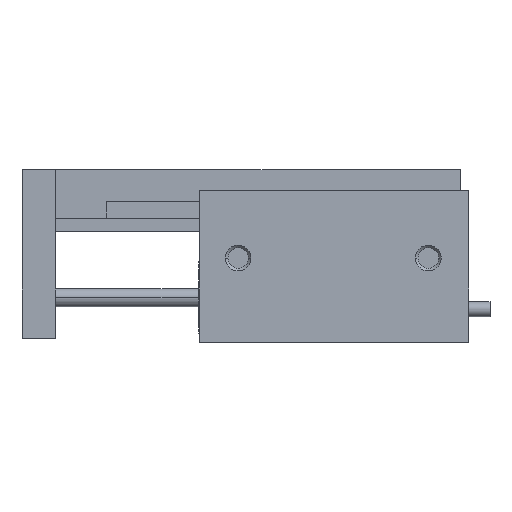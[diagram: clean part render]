
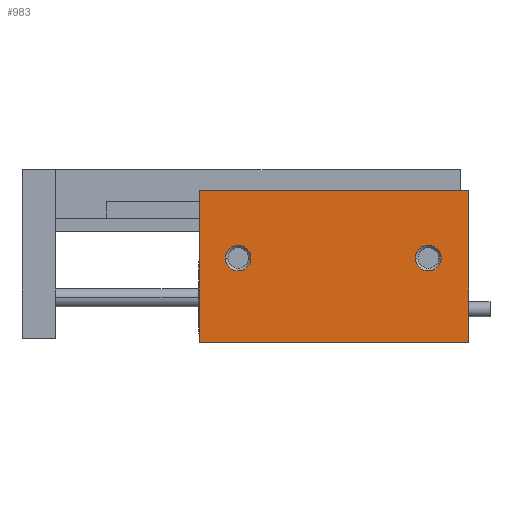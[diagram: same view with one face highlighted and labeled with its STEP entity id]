
A CAD part, top view. The second image highlights one B-rep face of the part: STEP entity #983.
In plain terms, the highlighted planar face has unit normal (0, 0, 1) as drawn and (0, 0, -1) by its records, which use the part's own axes.
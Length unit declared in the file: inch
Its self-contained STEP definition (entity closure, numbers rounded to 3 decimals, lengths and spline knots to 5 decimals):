
#102 = CARTESIAN_POINT ( 'NONE',  ( 0., -0.562, -0.43 ) ) ;
#168 = VECTOR ( 'NONE', #4026, 39.37008 ) ;
#189 = DIRECTION ( 'NONE',  ( 0., 1., 0. ) ) ;
#195 = CARTESIAN_POINT ( 'NONE',  ( 2., -0.562, -0.43 ) ) ;
#365 = DIRECTION ( 'NONE',  ( 0., 0., 1. ) ) ;
#746 = FACE_BOUND ( 'NONE', #7433, .T. ) ;
#983 = ADVANCED_FACE ( 'NONE', ( #4220, #2686, #746 ), #7044, .F. ) ;
#1037 = CARTESIAN_POINT ( 'NONE',  ( 0.205, 0.062, -0.43 ) ) ;
#1202 = VERTEX_POINT ( 'NONE', #1390 ) ;
#1208 = AXIS2_PLACEMENT_3D ( 'NONE', #6658, #2738, #7309 ) ;
#1222 = EDGE_CURVE ( 'NONE', #3232, #2114, #8208, .T. ) ;
#1319 = AXIS2_PLACEMENT_3D ( 'NONE', #6407, #2446, #7042 ) ;
#1390 = CARTESIAN_POINT ( 'NONE',  ( 2., -0.562, -0.43 ) ) ;
#1468 = CARTESIAN_POINT ( 'NONE',  ( 1.615, 0.062, -0.43 ) ) ;
#1674 = VERTEX_POINT ( 'NONE', #4475 ) ;
#1781 = VERTEX_POINT ( 'NONE', #6965 ) ;
#1872 = AXIS2_PLACEMENT_3D ( 'NONE', #7554, #3637, #8194 ) ;
#2114 = VERTEX_POINT ( 'NONE', #2734 ) ;
#2199 = VECTOR ( 'NONE', #2879, 39.37008 ) ;
#2252 = CIRCLE ( 'NONE', #1872, 0.095 ) ;
#2386 = LINE ( 'NONE', #195, #4122 ) ;
#2421 = EDGE_CURVE ( 'NONE', #2114, #3232, #8221, .T. ) ;
#2446 = DIRECTION ( 'NONE',  ( 0., 0., 1. ) ) ;
#2490 = ORIENTED_EDGE ( 'NONE', *, *, #3808, .T. ) ;
#2528 = EDGE_CURVE ( 'NONE', #1202, #4415, #2386, .T. ) ;
#2686 = FACE_OUTER_BOUND ( 'NONE', #7849, .T. ) ;
#2734 = CARTESIAN_POINT ( 'NONE',  ( 0.395, 0.062, -0.43 ) ) ;
#2738 = DIRECTION ( 'NONE',  ( 0., 0., 1. ) ) ;
#2879 = DIRECTION ( 'NONE',  ( -1., 0., 0. ) ) ;
#2899 = CARTESIAN_POINT ( 'NONE',  ( 2., 0.562, -0.43 ) ) ;
#3116 = VERTEX_POINT ( 'NONE', #2899 ) ;
#3128 = ORIENTED_EDGE ( 'NONE', *, *, #2421, .T. ) ;
#3232 = VERTEX_POINT ( 'NONE', #1037 ) ;
#3239 = CARTESIAN_POINT ( 'NONE',  ( 0., -0.562, -0.43 ) ) ;
#3331 = EDGE_CURVE ( 'NONE', #3979, #1674, #7276, .T. ) ;
#3538 = VECTOR ( 'NONE', #189, 39.37008 ) ;
#3564 = ORIENTED_EDGE ( 'NONE', *, *, #3331, .T. ) ;
#3637 = DIRECTION ( 'NONE',  ( 0., 0., 1. ) ) ;
#3704 = DIRECTION ( 'NONE',  ( 0., 0., 1. ) ) ;
#3808 = EDGE_CURVE ( 'NONE', #1674, #3979, #2252, .T. ) ;
#3979 = VERTEX_POINT ( 'NONE', #1468 ) ;
#4026 = DIRECTION ( 'NONE',  ( 0., 1., 0. ) ) ;
#4114 = CARTESIAN_POINT ( 'NONE',  ( 2., -0.562, -0.43 ) ) ;
#4122 = VECTOR ( 'NONE', #6757, 39.37008 ) ;
#4154 = EDGE_LOOP ( 'NONE', ( #5848, #3128 ) ) ;
#4220 = FACE_BOUND ( 'NONE', #4154, .T. ) ;
#4415 = VERTEX_POINT ( 'NONE', #3239 ) ;
#4475 = CARTESIAN_POINT ( 'NONE',  ( 1.805, 0.062, -0.43 ) ) ;
#4582 = CARTESIAN_POINT ( 'NONE',  ( 2., -0.562, -0.43 ) ) ;
#4603 = ORIENTED_EDGE ( 'NONE', *, *, #2528, .T. ) ;
#5404 = EDGE_CURVE ( 'NONE', #4415, #1781, #7135, .T. ) ;
#5653 = ORIENTED_EDGE ( 'NONE', *, *, #7967, .F. ) ;
#5708 = LINE ( 'NONE', #6796, #2199 ) ;
#5824 = AXIS2_PLACEMENT_3D ( 'NONE', #4582, #365, #7889 ) ;
#5848 = ORIENTED_EDGE ( 'NONE', *, *, #1222, .T. ) ;
#6407 = CARTESIAN_POINT ( 'NONE',  ( 1.71, 0.062, -0.43 ) ) ;
#6424 = LINE ( 'NONE', #4114, #3538 ) ;
#6658 = CARTESIAN_POINT ( 'NONE',  ( 0.3, 0.062, -0.43 ) ) ;
#6757 = DIRECTION ( 'NONE',  ( -1., 0., 0. ) ) ;
#6758 = EDGE_CURVE ( 'NONE', #1202, #3116, #6424, .T. ) ;
#6796 = CARTESIAN_POINT ( 'NONE',  ( 2., 0.562, -0.43 ) ) ;
#6965 = CARTESIAN_POINT ( 'NONE',  ( 0., 0.562, -0.43 ) ) ;
#7042 = DIRECTION ( 'NONE',  ( 1., 0., 0. ) ) ;
#7044 = PLANE ( 'NONE',  #5824 ) ;
#7135 = LINE ( 'NONE', #102, #168 ) ;
#7217 = ORIENTED_EDGE ( 'NONE', *, *, #5404, .T. ) ;
#7231 = AXIS2_PLACEMENT_3D ( 'NONE', #7633, #3704, #8271 ) ;
#7276 = CIRCLE ( 'NONE', #1319, 0.095 ) ;
#7309 = DIRECTION ( 'NONE',  ( 1., 0., 0. ) ) ;
#7379 = ORIENTED_EDGE ( 'NONE', *, *, #6758, .F. ) ;
#7433 = EDGE_LOOP ( 'NONE', ( #3564, #2490 ) ) ;
#7554 = CARTESIAN_POINT ( 'NONE',  ( 1.71, 0.062, -0.43 ) ) ;
#7633 = CARTESIAN_POINT ( 'NONE',  ( 0.3, 0.062, -0.43 ) ) ;
#7849 = EDGE_LOOP ( 'NONE', ( #7217, #5653, #7379, #4603 ) ) ;
#7889 = DIRECTION ( 'NONE',  ( 1., 0., 0. ) ) ;
#7967 = EDGE_CURVE ( 'NONE', #3116, #1781, #5708, .T. ) ;
#8194 = DIRECTION ( 'NONE',  ( 1., 0., 0. ) ) ;
#8208 = CIRCLE ( 'NONE', #1208, 0.095 ) ;
#8221 = CIRCLE ( 'NONE', #7231, 0.095 ) ;
#8271 = DIRECTION ( 'NONE',  ( 1., 0., 0. ) ) ;
